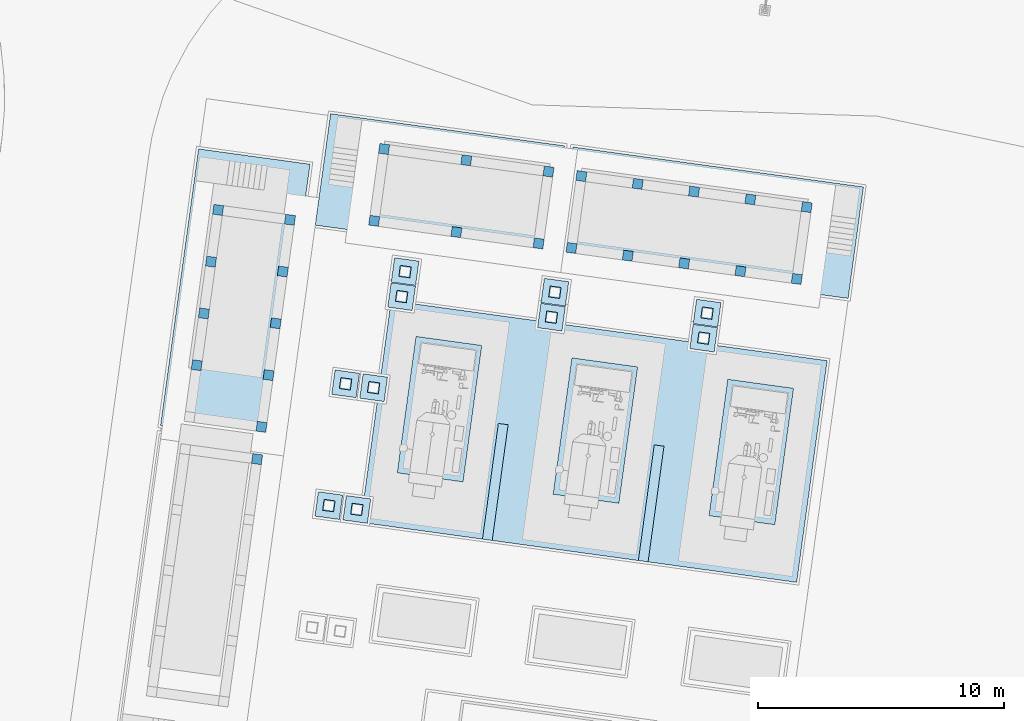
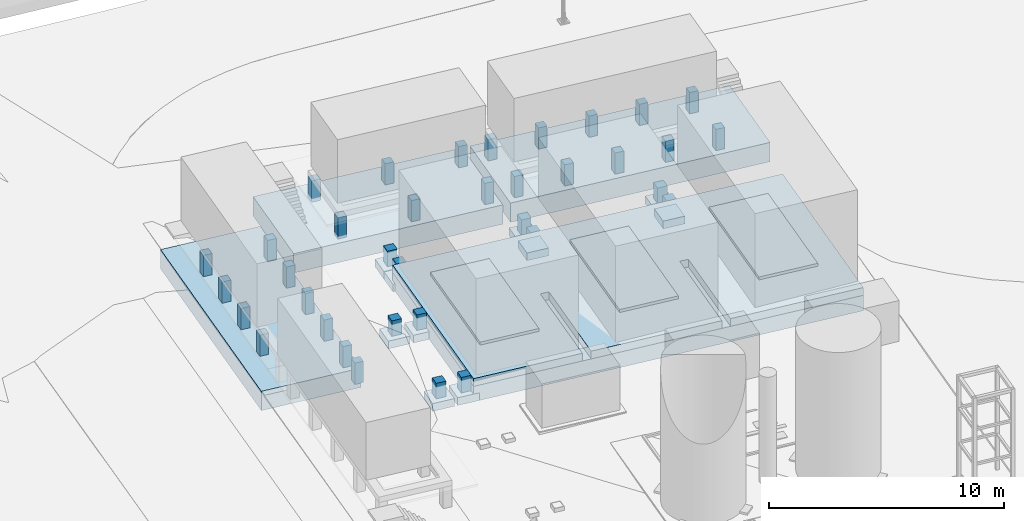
# Not in any storey, part 6 of 75: 54 footings.
"""IFC4 model written with IfcOpenShell, lengths in metres."""

import ifcopenshell
import ifcopenshell.guid

model = None  # the IFC model being written
_history = None  # IfcOwnerHistory: only IFC2X3 demands one
_inside = {}  # id of a spatial element -> (the spatial element, [elements in it])
_under = {}  # id of a project, library or spatial element -> (it, [spatial elements below it])
_declared = {}  # id of a project -> (the project, [libraries it declares])
_typed = {}  # id of a type object -> (the type object, [elements of that type])
_made_of = {}  # id of a material, layer set ... -> (it, [elements and type objects made of it])


def new_model(schema):
    """Start an empty IFC model of exactly this schema.

    Asked for "IFC4X3", IfcOpenShell would pick the latest addendum, in which some entities
    have other attributes; the version numbers below select the first issue.
    IFC2X3 requires an IfcOwnerHistory on every rooted entity: one is made here for all.
    """
    global model, _history
    if schema == "IFC4X3":
        model = ifcopenshell.file(schema_version=(4, 3, 0, 0))
    else:
        model = ifcopenshell.file(schema=schema)
    _inside.clear()
    _under.clear()
    _declared.clear()
    _typed.clear()
    _made_of.clear()
    _history = None
    if model.schema == "IFC2X3":
        org = make("IfcOrganization", Name="unknown")
        user = make(
            "IfcPersonAndOrganization",
            ThePerson=make("IfcPerson", FamilyName="unknown"),
            TheOrganization=org,
        )
        app = make(
            "IfcApplication",
            ApplicationDeveloper=org,
            Version="unknown",
            ApplicationFullName="unknown",
            ApplicationIdentifier="unknown",
        )
        _history = make(
            "IfcOwnerHistory",
            OwningUser=user,
            OwningApplication=app,
            ChangeAction="ADDED",
            CreationDate=0,
        )
    return model


def make(cls, **values):
    """One entity of the class cls with the attributes given. An attribute that is None is left unset."""
    return model.create_entity(
        cls, **{name: value for name, value in values.items() if value is not None}
    )


def rooted(cls, **values):
    """An entity with a GlobalId (a new one), such as an element, a storey or a relation."""
    return make(cls, GlobalId=ifcopenshell.guid.new(), OwnerHistory=_history, **values)


def si_unit(unit_type, name, prefix=None):
    """IfcSIUnit, for example si_unit("LENGTHUNIT", "METRE", prefix="MILLI")."""
    return make("IfcSIUnit", UnitType=unit_type, Prefix=prefix, Name=name)


def assignment(units):
    """IfcUnitAssignment: the units of a project."""
    return None if units is None else make("IfcUnitAssignment", Units=units)


def point(xyz):
    """IfcCartesianPoint."""
    return None if xyz is None else make("IfcCartesianPoint", Coordinates=xyz)


def direction(xyz):
    """IfcDirection."""
    return None if xyz is None else make("IfcDirection", DirectionRatios=xyz)


def frame(location, z_axis=None, x_axis=None):
    """IfcAxis2Placement3D, a coordinate frame: its origin and axes. An axis left out is left unset."""
    return make(
        "IfcAxis2Placement3D",
        Location=point(location),
        Axis=direction(z_axis),
        RefDirection=direction(x_axis),
    )


def origin():
    """The frame at (0, 0, 0) with its axes left unset."""
    return frame((0.0, 0.0, 0.0))


def origin_with_axes():
    """The frame at (0, 0, 0) with the z axis (0, 0, 1) and the x axis (1, 0, 0) written out."""
    return frame((0.0, 0.0, 0.0), z_axis=(0.0, 0.0, 1.0), x_axis=(1.0, 0.0, 0.0))


def place(relative_to, where):
    """IfcLocalPlacement: puts the frame where relative to a parent placement (None: the world)."""
    return make(
        "IfcLocalPlacement", PlacementRelTo=relative_to, RelativePlacement=where
    )


def context(
    kind, dimensions, precision=None, world=None, true_north=None, identifier=None
):
    """IfcGeometricRepresentationContext, for example the 3D "Model" context."""
    return make(
        "IfcGeometricRepresentationContext",
        ContextIdentifier=identifier,
        ContextType=kind,
        CoordinateSpaceDimension=dimensions,
        Precision=precision,
        WorldCoordinateSystem=world,
        TrueNorth=true_north,
    )


def subcontext(parent, identifier, kind, view, scale=None):
    """IfcGeometricRepresentationSubContext, for example "Body" below "Model"."""
    return make(
        "IfcGeometricRepresentationSubContext",
        ContextIdentifier=identifier,
        ContextType=kind,
        ParentContext=parent,
        TargetScale=scale,
        TargetView=view,
    )


def project(units=None, contexts=None):
    """IfcProject with its units and contexts."""
    return rooted(
        "IfcProject",
        Name="project",
        RepresentationContexts=contexts,
        UnitsInContext=assignment(units),
    )


def spatial(cls, under=None, at=None, **own):
    """A site, building, storey or space (cls), placed at a placement, below another one or the project."""
    s = rooted(cls, ObjectPlacement=at, **own)
    if under is not None:
        _under.setdefault(under.id(), (under, []))[1].append(s)
    return s


def point_list(points):
    """IfcCartesianPointList2D or 3D."""
    cls = (
        "IfcCartesianPointList2D" if len(points[0]) == 2 else "IfcCartesianPointList3D"
    )
    return make(cls, CoordList=points)


def triangles(points, corners, closed=None, point_numbers=None):
    """IfcTriangulatedFaceSet: each triangle names its three corners, points numbered from 1."""
    return make(
        "IfcTriangulatedFaceSet",
        Coordinates=point_list(points),
        Closed=closed,
        CoordIndex=corners,
        PnIndex=point_numbers,
    )


def shape(context_of_items, identifier, shape_type, items):
    """IfcShapeRepresentation: the items that make up one representation, for example the "Body"."""
    return make(
        "IfcShapeRepresentation",
        ContextOfItems=context_of_items,
        RepresentationIdentifier=identifier,
        RepresentationType=shape_type,
        Items=items,
    )


def material(Name=None, Category=None):
    """IfcMaterial."""
    return make("IfcMaterial", Name=Name, Category=Category)


def made_of(thing, what):
    """Note that an element or type object is made of a material, layer set ...; save() writes the relation."""
    if what is not None:
        _made_of.setdefault(what.id(), (what, []))[1].append(thing)
    return thing


def element(
    cls,
    number,
    at=None,
    inside=None,
    cuts=None,
    type_object=None,
    material=None,
    context=None,
    identifier="Body",
    shape_type=None,
    held_by="IfcProductDefinitionShape",
    body=None,
    shapes=None,
    **own,
):
    """One element of the class cls, such as IfcWall. Its Tag is "e" and its number.

    at: its placement. inside: the storey or other place that contains it. cuts: it is an
    opening in that element (IfcRelVoidsElement). A single representation is given by context,
    identifier, shape_type and body (its items); several are given by shapes. held_by: the class
    of the entity that holds the representations. save() writes the other relations.
    """
    e = rooted(cls, Tag="e%d" % number, ObjectPlacement=at, **own)
    if body is not None:
        shapes = [shape(context, identifier, shape_type, body)]
    if shapes is not None:
        e.Representation = make(held_by, Representations=shapes)
    if inside is not None:
        _inside.setdefault(inside.id(), (inside, []))[1].append(e)
    if cuts is not None:
        rooted(
            "IfcRelVoidsElement", RelatingBuildingElement=cuts, RelatedOpeningElement=e
        )
    if type_object is not None:
        _typed.setdefault(type_object.id(), (type_object, []))[1].append(e)
    return made_of(e, material)


def aggregate(whole, parts):
    """IfcRelAggregates: a whole, such as a stair, and the parts it consists of."""
    return rooted("IfcRelAggregates", RelatingObject=whole, RelatedObjects=parts)


def save(model, path):
    """Write the relations noted so far, then the file.

    IfcRelAggregates (storeys below a building ...), IfcRelContainedInSpatialStructure (elements
    in a storey), IfcRelDefinesByType, IfcRelAssociatesMaterial and IfcRelDeclares: one each for
    every whole, place, type object, material and project.
    """
    for whole, parts in _under.values():
        aggregate(whole, parts)
    for where, things in _inside.values():
        rooted(
            "IfcRelContainedInSpatialStructure",
            RelatedElements=things,
            RelatingStructure=where,
        )
    for kind, things in _typed.values():
        rooted("IfcRelDefinesByType", RelatedObjects=things, RelatingType=kind)
    for what, things in _made_of.values():
        rooted("IfcRelAssociatesMaterial", RelatedObjects=things, RelatingMaterial=what)
    for by, libraries in _declared.values():
        rooted("IfcRelDeclares", RelatingContext=by, RelatedDefinitions=libraries)
    model.write(path)


model = new_model("IFC4")

# Units and contexts
model_context = context("Model", 3, precision=1e-05, world=origin_with_axes(), true_north=direction((0.0, 1.0)))
body_context = subcontext(model_context, "Body", "Model", "MODEL_VIEW")
ifc_project = project(units=[si_unit("AREAUNIT", "SQUARE_METRE"), si_unit("VOLUMEUNIT", "CUBIC_METRE"), si_unit("LENGTHUNIT", "METRE")], contexts=[model_context])

# Site
site_placement = place(None, origin_with_axes())
site = spatial("IfcSite", under=ifc_project, at=site_placement, Name="Parcela industrial Jinhong")

# Footings
footing_1_placement = place(None, origin())
element("IfcFooting", 1, at=footing_1_placement, inside=site, Name="Cimentación común MAC · losa inferior", PredefinedType="PAD_FOOTING", context=body_context, shape_type="Tessellation", body=[
    triangles([(65.536987, 75.745192, 0.1), (64.297531, 66.729997, 0.1), (46.564344, 69.168047, 0.1), (47.8038, 78.183243, 0.1), (65.536987, 75.745192, 0.9), (64.297531, 66.729997, 0.9), (46.564344, 69.168047, 0.9), (47.8038, 78.183243, 0.9)], [[1, 2, 3], [3, 4, 1], [7, 6, 5], [5, 8, 7], [5, 6, 1], [1, 6, 2], [6, 7, 2], [2, 7, 3], [8, 5, 4], [4, 5, 1], [7, 8, 3], [3, 8, 4]], closed=True),
])
footing_2_placement = place(None, origin())
element("IfcFooting", 2, at=footing_2_placement, inside=site, Name="Cimentación común MAC · losa superior con dos canales de 400 mm", PredefinedType="PAD_FOOTING", context=body_context, shape_type="Tessellation", body=[
    triangles([(64.297531, 66.729997, 0.9), (58.254378, 67.560841, 0.9), (58.901347, 72.266575, 0.9), (58.505074, 72.321056, 0.9), (57.858106, 67.615322, 0.9), (51.914021, 68.432546, 0.9), (52.164717, 73.192762, 0.9), (51.517748, 68.487028, 0.9), (46.564344, 69.168047, 0.9), (65.536987, 75.745192, 0.9), (52.560989, 73.13828, 0.9), (47.8038, 78.183243, 0.9), (64.297531, 66.729997, 1.3), (58.254378, 67.560841, 1.3), (58.901347, 72.266575, 1.3), (58.505074, 72.321056, 1.3), (57.858106, 67.615322, 1.3), (51.914021, 68.432546, 1.3), (52.164717, 73.192762, 1.3), (51.517748, 68.487028, 1.3), (46.564344, 69.168047, 1.3), (65.536987, 75.745192, 1.3), (52.560989, 73.13828, 1.3), (47.8038, 78.183243, 1.3)], [[1, 2, 3], [4, 5, 6], [7, 8, 9], [10, 1, 3], [4, 6, 11], [7, 9, 12], [4, 10, 3], [11, 7, 12], [10, 4, 12], [4, 11, 12], [15, 14, 13], [18, 17, 16], [21, 20, 19], [15, 13, 22], [23, 18, 16], [24, 21, 19], [15, 22, 16], [24, 19, 23], [24, 16, 22], [24, 23, 16], [13, 14, 1], [1, 14, 2], [14, 15, 2], [2, 15, 3], [15, 16, 3], [3, 16, 4], [16, 17, 4], [4, 17, 5], [17, 18, 5], [5, 18, 6], [19, 20, 7], [7, 20, 8], [20, 21, 8], [8, 21, 9], [22, 13, 10], [10, 13, 1], [18, 23, 6], [6, 23, 11], [23, 19, 11], [11, 19, 7], [21, 24, 9], [9, 24, 12], [24, 22, 12], [12, 22, 10]], closed=True),
])
footing_3_placement = place(None, origin())
element("IfcFooting", 3, at=footing_3_placement, inside=site, Name="Plinto del compresor AC1001A · resalto de hormigón", PredefinedType="PAD_FOOTING", context=body_context, shape_type="Tessellation", body=[
    triangles([(51.49039, 76.364162, 1.3), (50.727648, 70.81635, 1.3), (48.05281, 71.1841, 1.3), (48.815552, 76.731913, 1.3), (51.49039, 76.364162, 1.45), (50.727648, 70.81635, 1.45), (48.05281, 71.1841, 1.45), (48.815552, 76.731913, 1.45)], [[1, 2, 3], [3, 4, 1], [7, 6, 5], [5, 8, 7], [5, 6, 1], [1, 6, 2], [6, 7, 2], [2, 7, 3], [8, 5, 4], [4, 5, 1], [7, 8, 3], [3, 8, 4]], closed=True),
])
footing_4_placement = place(None, origin())
element("IfcFooting", 4, at=footing_4_placement, inside=site, Name="Plinto del compresor AC1001B · resalto de hormigón", PredefinedType="PAD_FOOTING", context=body_context, shape_type="Tessellation", body=[
    triangles([(57.830747, 75.492457, 1.3), (57.068005, 69.944645, 1.3), (54.393167, 70.312395, 1.3), (55.155909, 75.860208, 1.3), (57.830747, 75.492457, 1.45), (57.068005, 69.944645, 1.45), (54.393167, 70.312395, 1.45), (55.155909, 75.860208, 1.45)], [[1, 2, 3], [3, 4, 1], [7, 6, 5], [5, 8, 7], [5, 6, 1], [1, 6, 2], [6, 7, 2], [2, 7, 3], [8, 5, 4], [4, 5, 1], [7, 8, 3], [3, 8, 4]], closed=True),
])
footing_5_placement = place(None, origin())
element("IfcFooting", 5, at=footing_5_placement, inside=site, Name="Plinto del compresor AC1001C · resalto de hormigón", PredefinedType="PAD_FOOTING", context=body_context, shape_type="Tessellation", body=[
    triangles([(64.171105, 74.620752, 1.3), (63.408363, 69.072939, 1.3), (60.733524, 69.44069, 1.3), (61.496266, 74.988503, 1.3), (64.171105, 74.620752, 1.45), (63.408363, 69.072939, 1.45), (60.733524, 69.44069, 1.45), (61.496266, 74.988503, 1.45)], [[1, 2, 3], [3, 4, 1], [7, 6, 5], [5, 8, 7], [5, 6, 1], [1, 6, 2], [6, 7, 2], [2, 7, 3], [8, 5, 4], [4, 5, 1], [7, 8, 3], [3, 8, 4]], closed=True),
])
footing_6_placement = place(None, origin())
element("IfcFooting", 6, at=footing_6_placement, inside=site, Name="Cimentación y plataforma del módulo LV-CONTAINER · cuerpo de hormigón", PredefinedType="PAD_FOOTING", context=body_context, shape_type="Tessellation", body=[
    triangles([(38.42586, 73.113307, 0.1), (44.504139, 83.734402, 0.1), (42.958225, 72.490174, 0.1), (39.971775, 84.357535, 0.1), (38.42586, 73.113307, 1.1), (44.504139, 83.734402, 1.1), (42.958225, 72.490174, 1.1), (39.971775, 84.357535, 1.1)], [[1, 2, 3], [2, 1, 4], [7, 6, 5], [8, 5, 6], [7, 5, 3], [3, 5, 1], [6, 7, 2], [2, 7, 3], [5, 8, 1], [1, 8, 4], [8, 6, 4], [4, 6, 2]], closed=True),
])
footing_7_placement = place(None, origin())
element("IfcFooting", 7, at=footing_7_placement, inside=site, Name="Cimentación y plataforma del módulo LV-CONTAINER · pilar KZ1 01", PredefinedType="PAD_FOOTING", context=body_context, shape_type="Tessellation", body=[
    triangles([(42.360091, 73.278994, 1.1), (42.756363, 73.224512, 1.1), (42.701882, 72.82824, 1.1), (42.305609, 72.882721, 1.1), (42.360091, 73.278994, 2.2), (42.756363, 73.224512, 2.2), (42.701882, 72.82824, 2.2), (42.305609, 72.882721, 2.2)], [[1, 2, 3], [3, 4, 1], [7, 6, 5], [5, 8, 7], [5, 6, 1], [1, 6, 2], [6, 7, 2], [2, 7, 3], [8, 5, 4], [4, 5, 1], [7, 8, 3], [3, 8, 4]], closed=True),
])
footing_8_placement = place(None, origin())
element("IfcFooting", 8, at=footing_8_placement, inside=site, Name="Cimentación y plataforma del módulo LV-CONTAINER · pilar KZ1 02", PredefinedType="PAD_FOOTING", context=body_context, shape_type="Tessellation", body=[
    triangles([(42.649524, 75.38419, 1.1), (43.045797, 75.329709, 1.1), (42.991315, 74.933437, 1.1), (42.595043, 74.987918, 1.1), (42.649524, 75.38419, 2.2), (43.045797, 75.329709, 2.2), (42.991315, 74.933437, 2.2), (42.595043, 74.987918, 2.2)], [[1, 2, 3], [3, 4, 1], [7, 6, 5], [5, 8, 7], [5, 6, 1], [1, 6, 2], [6, 7, 2], [2, 7, 3], [8, 5, 4], [4, 5, 1], [7, 8, 3], [3, 8, 4]], closed=True),
])
footing_9_placement = place(None, origin())
element("IfcFooting", 9, at=footing_9_placement, inside=site, Name="Cimentación y plataforma del módulo LV-CONTAINER · pilar KZ1 03", PredefinedType="PAD_FOOTING", context=body_context, shape_type="Tessellation", body=[
    triangles([(42.938958, 77.489387, 1.1), (43.33523, 77.434906, 1.1), (43.280748, 77.038633, 1.1), (42.884476, 77.093115, 1.1), (42.938958, 77.489387, 2.2), (43.33523, 77.434906, 2.2), (43.280748, 77.038633, 2.2), (42.884476, 77.093115, 2.2)], [[1, 2, 3], [3, 4, 1], [7, 6, 5], [5, 8, 7], [5, 6, 1], [1, 6, 2], [6, 7, 2], [2, 7, 3], [8, 5, 4], [4, 5, 1], [7, 8, 3], [3, 8, 4]], closed=True),
])
footing_10_placement = place(None, origin())
element("IfcFooting", 10, at=footing_10_placement, inside=site, Name="Cimentación y plataforma del módulo LV-CONTAINER · pilar KZ1 04", PredefinedType="PAD_FOOTING", context=body_context, shape_type="Tessellation", body=[
    triangles([(43.228391, 79.594584, 1.1), (43.624663, 79.540102, 1.1), (43.570182, 79.14383, 1.1), (43.17391, 79.198312, 1.1), (43.228391, 79.594584, 2.2), (43.624663, 79.540102, 2.2), (43.570182, 79.14383, 2.2), (43.17391, 79.198312, 2.2)], [[1, 2, 3], [3, 4, 1], [7, 6, 5], [5, 8, 7], [5, 6, 1], [1, 6, 2], [6, 7, 2], [2, 7, 3], [8, 5, 4], [4, 5, 1], [7, 8, 3], [3, 8, 4]], closed=True),
])
footing_11_placement = place(None, origin())
element("IfcFooting", 11, at=footing_11_placement, inside=site, Name="Cimentación y plataforma del módulo LV-CONTAINER · pilar KZ1 05", PredefinedType="PAD_FOOTING", context=body_context, shape_type="Tessellation", body=[
    triangles([(43.517824, 81.699781, 1.1), (43.914097, 81.645299, 1.1), (43.859615, 81.249027, 1.1), (43.463343, 81.303508, 1.1), (43.517824, 81.699781, 2.2), (43.914097, 81.645299, 2.2), (43.859615, 81.249027, 2.2), (43.463343, 81.303508, 2.2)], [[1, 2, 3], [3, 4, 1], [7, 6, 5], [5, 8, 7], [5, 6, 1], [1, 6, 2], [6, 7, 2], [2, 7, 3], [8, 5, 4], [4, 5, 1], [7, 8, 3], [3, 8, 4]], closed=True),
])
footing_12_placement = place(None, origin())
element("IfcFooting", 12, at=footing_12_placement, inside=site, Name="Cimentación y plataforma del módulo LV-CONTAINER · pilar KZ1 07", PredefinedType="PAD_FOOTING", context=body_context, shape_type="Tessellation", body=[
    triangles([(39.727016, 75.785992, 1.1), (40.123288, 75.73151, 1.1), (40.068807, 75.335238, 1.1), (39.672534, 75.38972, 1.1), (39.727016, 75.785992, 2.2), (40.123288, 75.73151, 2.2), (40.068807, 75.335238, 2.2), (39.672534, 75.38972, 2.2)], [[1, 2, 3], [3, 4, 1], [7, 6, 5], [5, 8, 7], [5, 6, 1], [1, 6, 2], [6, 7, 2], [2, 7, 3], [8, 5, 4], [4, 5, 1], [7, 8, 3], [3, 8, 4]], closed=True),
])
footing_13_placement = place(None, origin())
element("IfcFooting", 13, at=footing_13_placement, inside=site, Name="Cimentación y plataforma del módulo LV-CONTAINER · pilar KZ1 08", PredefinedType="PAD_FOOTING", context=body_context, shape_type="Tessellation", body=[
    triangles([(40.016449, 77.891189, 1.1), (40.412722, 77.836707, 1.1), (40.35824, 77.440435, 1.1), (39.961968, 77.494916, 1.1), (40.016449, 77.891189, 2.2), (40.412722, 77.836707, 2.2), (40.35824, 77.440435, 2.2), (39.961968, 77.494916, 2.2)], [[1, 2, 3], [3, 4, 1], [7, 6, 5], [5, 8, 7], [5, 6, 1], [1, 6, 2], [6, 7, 2], [2, 7, 3], [8, 5, 4], [4, 5, 1], [7, 8, 3], [3, 8, 4]], closed=True),
])
footing_14_placement = place(None, origin())
element("IfcFooting", 14, at=footing_14_placement, inside=site, Name="Cimentación y plataforma del módulo LV-CONTAINER · pilar KZ1 09", PredefinedType="PAD_FOOTING", context=body_context, shape_type="Tessellation", body=[
    triangles([(40.305883, 79.996385, 1.1), (40.702155, 79.941904, 1.1), (40.647673, 79.545632, 1.1), (40.251401, 79.600113, 1.1), (40.305883, 79.996385, 2.2), (40.702155, 79.941904, 2.2), (40.647673, 79.545632, 2.2), (40.251401, 79.600113, 2.2)], [[1, 2, 3], [3, 4, 1], [7, 6, 5], [5, 8, 7], [5, 6, 1], [1, 6, 2], [6, 7, 2], [2, 7, 3], [8, 5, 4], [4, 5, 1], [7, 8, 3], [3, 8, 4]], closed=True),
])
footing_15_placement = place(None, origin())
element("IfcFooting", 15, at=footing_15_placement, inside=site, Name="Cimentación y plataforma del módulo LV-CONTAINER · pilar KZ1 10", PredefinedType="PAD_FOOTING", context=body_context, shape_type="Tessellation", body=[
    triangles([(40.595316, 82.101582, 1.1), (40.991588, 82.047101, 1.1), (40.937107, 81.650828, 1.1), (40.540834, 81.70531, 1.1), (40.595316, 82.101582, 2.2), (40.991588, 82.047101, 2.2), (40.937107, 81.650828, 2.2), (40.540834, 81.70531, 2.2)], [[1, 2, 3], [3, 4, 1], [7, 6, 5], [5, 8, 7], [5, 6, 1], [1, 6, 2], [6, 7, 2], [2, 7, 3], [8, 5, 4], [4, 5, 1], [7, 8, 3], [3, 8, 4]], closed=True),
])
footing_16_placement = place(None, origin())
element("IfcFooting", 16, at=footing_16_placement, inside=site, Name="Cimentación y plataforma del módulo HV-CONTAINER · cuerpo de hormigón", PredefinedType="PAD_FOOTING", context=body_context, shape_type="Tessellation", body=[
    triangles([(55.199126, 84.434224, 0.1), (66.389862, 78.277628, 0.1), (54.575994, 79.901859, 0.1), (67.012995, 82.809992, 0.1), (55.199126, 84.434224, 1.1), (66.389862, 78.277628, 1.1), (54.575994, 79.901859, 1.1), (67.012995, 82.809992, 1.1)], [[1, 2, 3], [2, 1, 4], [7, 6, 5], [8, 5, 6], [7, 5, 3], [3, 5, 1], [6, 7, 2], [2, 7, 3], [5, 8, 1], [1, 8, 4], [8, 6, 4], [4, 6, 2]], closed=True),
])
footing_17_placement = place(None, origin())
element("IfcFooting", 17, at=footing_17_placement, inside=site, Name="Cimentación y plataforma del módulo HV-CONTAINER · pilar KZ1 01", PredefinedType="PAD_FOOTING", context=body_context, shape_type="Tessellation", body=[
    triangles([(55.364813, 80.499993, 1.1), (55.310331, 80.103721, 1.1), (54.914059, 80.158203, 1.1), (54.968541, 80.554475, 1.1), (55.364813, 80.499993, 2.2), (55.310331, 80.103721, 2.2), (54.914059, 80.158203, 2.2), (54.968541, 80.554475, 2.2)], [[1, 2, 3], [3, 4, 1], [7, 6, 5], [5, 8, 7], [5, 6, 1], [1, 6, 2], [6, 7, 2], [2, 7, 3], [8, 5, 4], [4, 5, 1], [7, 8, 3], [3, 8, 4]], closed=True),
])
footing_18_placement = place(None, origin())
element("IfcFooting", 18, at=footing_18_placement, inside=site, Name="Cimentación y plataforma del módulo HV-CONTAINER · pilar KZ1 02", PredefinedType="PAD_FOOTING", context=body_context, shape_type="Tessellation", body=[
    triangles([(57.655762, 80.185022, 1.1), (57.601281, 79.788749, 1.1), (57.205008, 79.843231, 1.1), (57.25949, 80.239503, 1.1), (57.655762, 80.185022, 2.2), (57.601281, 79.788749, 2.2), (57.205008, 79.843231, 2.2), (57.25949, 80.239503, 2.2)], [[1, 2, 3], [3, 4, 1], [7, 6, 5], [5, 8, 7], [5, 6, 1], [1, 6, 2], [6, 7, 2], [2, 7, 3], [8, 5, 4], [4, 5, 1], [7, 8, 3], [3, 8, 4]], closed=True),
])
footing_19_placement = place(None, origin())
element("IfcFooting", 19, at=footing_19_placement, inside=site, Name="Cimentación y plataforma del módulo HV-CONTAINER · pilar KZ1 03", PredefinedType="PAD_FOOTING", context=body_context, shape_type="Tessellation", body=[
    triangles([(59.946712, 79.87005, 1.1), (59.89223, 79.473778, 1.1), (59.495958, 79.528259, 1.1), (59.550439, 79.924532, 1.1), (59.946712, 79.87005, 2.2), (59.89223, 79.473778, 2.2), (59.495958, 79.528259, 2.2), (59.550439, 79.924532, 2.2)], [[1, 2, 3], [3, 4, 1], [7, 6, 5], [5, 8, 7], [5, 6, 1], [1, 6, 2], [6, 7, 2], [2, 7, 3], [8, 5, 4], [4, 5, 1], [7, 8, 3], [3, 8, 4]], closed=True),
])
footing_20_placement = place(None, origin())
element("IfcFooting", 20, at=footing_20_placement, inside=site, Name="Cimentación y plataforma del módulo HV-CONTAINER · pilar KZ1 04", PredefinedType="PAD_FOOTING", context=body_context, shape_type="Tessellation", body=[
    triangles([(62.237661, 79.555079, 1.1), (62.183179, 79.158806, 1.1), (61.786907, 79.213288, 1.1), (61.841389, 79.60956, 1.1), (62.237661, 79.555079, 2.2), (62.183179, 79.158806, 2.2), (61.786907, 79.213288, 2.2), (61.841389, 79.60956, 2.2)], [[1, 2, 3], [3, 4, 1], [7, 6, 5], [5, 8, 7], [5, 6, 1], [1, 6, 2], [6, 7, 2], [2, 7, 3], [8, 5, 4], [4, 5, 1], [7, 8, 3], [3, 8, 4]], closed=True),
])
footing_21_placement = place(None, origin())
element("IfcFooting", 21, at=footing_21_placement, inside=site, Name="Cimentación y plataforma del módulo HV-CONTAINER · pilar KZ1 05", PredefinedType="PAD_FOOTING", context=body_context, shape_type="Tessellation", body=[
    triangles([(64.52861, 79.240107, 1.1), (64.474129, 78.843835, 1.1), (64.077857, 78.898316, 1.1), (64.132338, 79.294589, 1.1), (64.52861, 79.240107, 2.2), (64.474129, 78.843835, 2.2), (64.077857, 78.898316, 2.2), (64.132338, 79.294589, 2.2)], [[1, 2, 3], [3, 4, 1], [7, 6, 5], [5, 8, 7], [5, 6, 1], [1, 6, 2], [6, 7, 2], [2, 7, 3], [8, 5, 4], [4, 5, 1], [7, 8, 3], [3, 8, 4]], closed=True),
])
footing_22_placement = place(None, origin())
element("IfcFooting", 22, at=footing_22_placement, inside=site, Name="Cimentación y plataforma del módulo HV-CONTAINER · pilar KZ1 06", PredefinedType="PAD_FOOTING", context=body_context, shape_type="Tessellation", body=[
    triangles([(55.766614, 83.422502, 1.1), (55.712133, 83.026229, 1.1), (55.315861, 83.080711, 1.1), (55.370342, 83.476983, 1.1), (55.766614, 83.422502, 2.2), (55.712133, 83.026229, 2.2), (55.315861, 83.080711, 2.2), (55.370342, 83.476983, 2.2)], [[1, 2, 3], [3, 4, 1], [7, 6, 5], [5, 8, 7], [5, 6, 1], [1, 6, 2], [6, 7, 2], [2, 7, 3], [8, 5, 4], [4, 5, 1], [7, 8, 3], [3, 8, 4]], closed=True),
])
footing_23_placement = place(None, origin())
element("IfcFooting", 23, at=footing_23_placement, inside=site, Name="Cimentación y plataforma del módulo HV-CONTAINER · pilar KZ1 07", PredefinedType="PAD_FOOTING", context=body_context, shape_type="Tessellation", body=[
    triangles([(57.60681, 82.765739, 1.1), (58.057564, 83.10753, 1.1), (58.003082, 82.711258, 1.1), (57.661292, 83.162012, 1.1), (57.60681, 82.765739, 2.2), (58.057564, 83.10753, 2.2), (58.003082, 82.711258, 2.2), (57.661292, 83.162012, 2.2)], [[1, 2, 3], [2, 1, 4], [7, 6, 5], [8, 5, 6], [7, 5, 3], [3, 5, 1], [6, 7, 2], [2, 7, 3], [5, 8, 1], [1, 8, 4], [8, 6, 4], [4, 6, 2]], closed=True),
])
footing_24_placement = place(None, origin())
element("IfcFooting", 24, at=footing_24_placement, inside=site, Name="Cimentación y plataforma del módulo HV-CONTAINER · pilar KZ1 08", PredefinedType="PAD_FOOTING", context=body_context, shape_type="Tessellation", body=[
    triangles([(59.897759, 82.450768, 1.1), (60.348513, 82.792559, 1.1), (60.294032, 82.396286, 1.1), (59.952241, 82.84704, 1.1), (59.897759, 82.450768, 2.2), (60.348513, 82.792559, 2.2), (60.294032, 82.396286, 2.2), (59.952241, 82.84704, 2.2)], [[1, 2, 3], [2, 1, 4], [7, 6, 5], [8, 5, 6], [7, 5, 3], [3, 5, 1], [6, 7, 2], [2, 7, 3], [5, 8, 1], [1, 8, 4], [8, 6, 4], [4, 6, 2]], closed=True),
])
footing_25_placement = place(None, origin())
element("IfcFooting", 25, at=footing_25_placement, inside=site, Name="Cimentación y plataforma del módulo HV-CONTAINER · pilar KZ1 09", PredefinedType="PAD_FOOTING", context=body_context, shape_type="Tessellation", body=[
    triangles([(62.188709, 82.135796, 1.1), (62.639463, 82.477587, 1.1), (62.584981, 82.081315, 1.1), (62.24319, 82.532069, 1.1), (62.188709, 82.135796, 2.2), (62.639463, 82.477587, 2.2), (62.584981, 82.081315, 2.2), (62.24319, 82.532069, 2.2)], [[1, 2, 3], [2, 1, 4], [7, 6, 5], [8, 5, 6], [7, 5, 3], [3, 5, 1], [6, 7, 2], [2, 7, 3], [5, 8, 1], [1, 8, 4], [8, 6, 4], [4, 6, 2]], closed=True),
])
footing_26_placement = place(None, origin())
element("IfcFooting", 26, at=footing_26_placement, inside=site, Name="Cimentación y plataforma del módulo HV-CONTAINER · pilar KZ1 10", PredefinedType="PAD_FOOTING", context=body_context, shape_type="Tessellation", body=[
    triangles([(64.479658, 81.820825, 1.1), (64.930412, 82.162615, 1.1), (64.87593, 81.766343, 1.1), (64.53414, 82.217097, 1.1), (64.479658, 81.820825, 2.2), (64.930412, 82.162615, 2.2), (64.87593, 81.766343, 2.2), (64.53414, 82.217097, 2.2)], [[1, 2, 3], [2, 1, 4], [7, 6, 5], [8, 5, 6], [7, 5, 3], [3, 5, 1], [6, 7, 2], [2, 7, 3], [5, 8, 1], [1, 8, 4], [8, 6, 4], [4, 6, 2]], closed=True),
])
footing_27_placement = place(None, origin())
element("IfcFooting", 27, at=footing_27_placement, inside=site, Name="Cimentación y plataforma del módulo IC-CONTAINER · pilar KZ1 05", PredefinedType="PAD_FOOTING", context=body_context, shape_type="Tessellation", body=[
    triangles([(42.179621, 71.966342, 1.1), (42.575893, 71.91186, 1.1), (42.521412, 71.515588, 1.1), (42.125139, 71.570069, 1.1), (42.179621, 71.966342, 2.2), (42.575893, 71.91186, 2.2), (42.521412, 71.515588, 2.2), (42.125139, 71.570069, 2.2)], [[1, 2, 3], [3, 4, 1], [7, 6, 5], [5, 8, 7], [5, 6, 1], [1, 6, 2], [6, 7, 2], [2, 7, 3], [8, 5, 4], [4, 5, 1], [7, 8, 3], [3, 8, 4]], closed=True),
])
footing_28_placement = place(None, origin())
element("IfcFooting", 28, at=footing_28_placement, inside=site, Name="Cimentación y plataforma del módulo MV-CONTAINER · cuerpo de hormigón", PredefinedType="PAD_FOOTING", context=body_context, shape_type="Tessellation", body=[
    triangles([(54.851893, 84.481964, 0.1), (54.22876, 79.949599, 0.1), (44.718224, 81.257157, 0.1), (45.341357, 85.789521, 0.1), (54.851893, 84.481964, 1.1), (54.22876, 79.949599, 1.1), (44.718224, 81.257157, 1.1), (45.341357, 85.789521, 1.1)], [[1, 2, 3], [3, 4, 1], [7, 6, 5], [5, 8, 7], [5, 6, 1], [1, 6, 2], [6, 7, 2], [2, 7, 3], [8, 5, 4], [4, 5, 1], [7, 8, 3], [3, 8, 4]], closed=True),
])
footing_29_placement = place(None, origin())
element("IfcFooting", 29, at=footing_29_placement, inside=site, Name="Cimentación y plataforma del módulo MV-CONTAINER · pilar KZ1 01", PredefinedType="PAD_FOOTING", context=body_context, shape_type="Tessellation", body=[
    triangles([(51.085648, 84.066065, 1.1), (51.031166, 83.669793, 1.1), (50.634894, 83.724274, 1.1), (50.689375, 84.120547, 1.1), (51.085648, 84.066065, 2.2), (51.031166, 83.669793, 2.2), (50.634894, 83.724274, 2.2), (50.689375, 84.120547, 2.2)], [[1, 2, 3], [3, 4, 1], [7, 6, 5], [5, 8, 7], [5, 6, 1], [1, 6, 2], [6, 7, 2], [2, 7, 3], [8, 5, 4], [4, 5, 1], [7, 8, 3], [3, 8, 4]], closed=True),
])
footing_30_placement = place(None, origin())
element("IfcFooting", 30, at=footing_30_placement, inside=site, Name="Cimentación y plataforma del módulo MV-CONTAINER · pilar KZ1 02", PredefinedType="PAD_FOOTING", context=body_context, shape_type="Tessellation", body=[
    triangles([(47.339803, 81.603313, 1.1), (47.285321, 81.207041, 1.1), (46.889049, 81.261522, 1.1), (46.943531, 81.657795, 1.1), (47.339803, 81.603313, 2.2), (47.285321, 81.207041, 2.2), (46.889049, 81.261522, 2.2), (46.943531, 81.657795, 2.2)], [[1, 2, 3], [3, 4, 1], [7, 6, 5], [5, 8, 7], [5, 6, 1], [1, 6, 2], [6, 7, 2], [2, 7, 3], [8, 5, 4], [4, 5, 1], [7, 8, 3], [3, 8, 4]], closed=True),
])
footing_31_placement = place(None, origin())
element("IfcFooting", 31, at=footing_31_placement, inside=site, Name="Cimentación y plataforma del módulo MV-CONTAINER · pilar KZ1 03", PredefinedType="PAD_FOOTING", context=body_context, shape_type="Tessellation", body=[
    triangles([(50.683846, 81.143557, 1.1), (50.629364, 80.747285, 1.1), (50.233092, 80.801766, 1.1), (50.287574, 81.198038, 1.1), (50.683846, 81.143557, 2.2), (50.629364, 80.747285, 2.2), (50.233092, 80.801766, 2.2), (50.287574, 81.198038, 2.2)], [[1, 2, 3], [3, 4, 1], [7, 6, 5], [5, 8, 7], [5, 6, 1], [1, 6, 2], [6, 7, 2], [2, 7, 3], [8, 5, 4], [4, 5, 1], [7, 8, 3], [3, 8, 4]], closed=True),
])
footing_32_placement = place(None, origin())
element("IfcFooting", 32, at=footing_32_placement, inside=site, Name="Cimentación y plataforma del módulo MV-CONTAINER · pilar KZ1 04", PredefinedType="PAD_FOOTING", context=body_context, shape_type="Tessellation", body=[
    triangles([(54.026898, 80.683937, 1.1), (53.972417, 80.287664, 1.1), (53.576145, 80.342146, 1.1), (53.630626, 80.738418, 1.1), (54.026898, 80.683937, 2.2), (53.972417, 80.287664, 2.2), (53.576145, 80.342146, 2.2), (53.630626, 80.738418, 2.2)], [[1, 2, 3], [3, 4, 1], [7, 6, 5], [5, 8, 7], [5, 6, 1], [1, 6, 2], [6, 7, 2], [2, 7, 3], [8, 5, 4], [4, 5, 1], [7, 8, 3], [3, 8, 4]], closed=True),
])
footing_33_placement = place(None, origin())
element("IfcFooting", 33, at=footing_33_placement, inside=site, Name="Cimentación y plataforma del módulo MV-CONTAINER · pilar KZ1 05", PredefinedType="PAD_FOOTING", context=body_context, shape_type="Tessellation", body=[
    triangles([(47.741604, 84.525822, 1.1), (47.687123, 84.129549, 1.1), (47.290851, 84.184031, 1.1), (47.345332, 84.580303, 1.1), (47.741604, 84.525822, 2.2), (47.687123, 84.129549, 2.2), (47.290851, 84.184031, 2.2), (47.345332, 84.580303, 2.2)], [[1, 2, 3], [3, 4, 1], [7, 6, 5], [5, 8, 7], [5, 6, 1], [1, 6, 2], [6, 7, 2], [2, 7, 3], [8, 5, 4], [4, 5, 1], [7, 8, 3], [3, 8, 4]], closed=True),
])
footing_34_placement = place(None, origin())
element("IfcFooting", 34, at=footing_34_placement, inside=site, Name="Cimentación y plataforma del módulo MV-CONTAINER · pilar KZ1 06", PredefinedType="PAD_FOOTING", context=body_context, shape_type="Tessellation", body=[
    triangles([(54.4287, 83.606445, 1.1), (54.374218, 83.210173, 1.1), (53.977946, 83.264654, 1.1), (54.032428, 83.660927, 1.1), (54.4287, 83.606445, 2.2), (54.374218, 83.210173, 2.2), (53.977946, 83.264654, 2.2), (54.032428, 83.660927, 2.2)], [[1, 2, 3], [3, 4, 1], [7, 6, 5], [5, 8, 7], [5, 6, 1], [1, 6, 2], [6, 7, 2], [2, 7, 3], [8, 5, 4], [4, 5, 1], [7, 8, 3], [3, 8, 4]], closed=True),
])
ifc_material = material(Name="Hormigón HA-30", Category="Material documentado")
footing_35_placement = place(None, origin())
element("IfcFooting", 35, at=footing_35_placement, inside=site, material=ifc_material, Name="Cimentación de soporte de tuberías C01 · cuerpo de hormigón", PredefinedType="PAD_FOOTING", context=body_context, shape_type="Tessellation", body=[
    triangles([(47.806885, 78.939874, 0.1), (47.943089, 79.930555, 0.1), (48.93377, 79.794351, 0.1), (48.797566, 78.80367, 0.1), (47.806885, 78.939874, 0.5), (47.943089, 79.930555, 0.5), (48.93377, 79.794351, 0.5), (48.797566, 78.80367, 0.5)], [[1, 2, 3], [3, 4, 1], [7, 6, 5], [5, 8, 7], [5, 6, 1], [1, 6, 2], [6, 7, 2], [2, 7, 3], [8, 5, 4], [4, 5, 1], [7, 8, 3], [3, 8, 4]], closed=True),
])
footing_36_placement = place(None, origin())
element("IfcFooting", 36, at=footing_36_placement, inside=site, material=ifc_material, Name="Cimentación de soporte de tuberías C01 · pedestal de hormigón", PredefinedType="PAD_FOOTING", context=body_context, shape_type="Tessellation", body=[
    triangles([(48.116778, 79.174855, 0.5), (48.17807, 79.620661, 0.5), (48.623876, 79.559369, 0.5), (48.562584, 79.113563, 0.5), (48.116778, 79.174855, 1.3), (48.17807, 79.620661, 1.3), (48.623876, 79.559369, 1.3), (48.562584, 79.113563, 1.3)], [[1, 2, 3], [3, 4, 1], [7, 6, 5], [5, 8, 7], [5, 6, 1], [1, 6, 2], [6, 7, 2], [2, 7, 3], [8, 5, 4], [4, 5, 1], [7, 8, 3], [3, 8, 4]], closed=True),
])
footing_37_placement = place(None, origin())
element("IfcFooting", 37, at=footing_37_placement, inside=site, material=ifc_material, Name="Cimentación de soporte de tuberías C02 · cuerpo de hormigón", PredefinedType="PAD_FOOTING", context=body_context, shape_type="Tessellation", body=[
    triangles([(47.667276, 77.924426, 0.1), (47.80348, 78.915107, 0.1), (48.79416, 78.778903, 0.1), (48.657957, 77.788222, 0.1), (47.667276, 77.924426, 0.5), (47.80348, 78.915107, 0.5), (48.79416, 78.778903, 0.5), (48.657957, 77.788222, 0.5)], [[1, 2, 3], [3, 4, 1], [7, 6, 5], [5, 8, 7], [5, 6, 1], [1, 6, 2], [6, 7, 2], [2, 7, 3], [8, 5, 4], [4, 5, 1], [7, 8, 3], [3, 8, 4]], closed=True),
])
footing_38_placement = place(None, origin())
element("IfcFooting", 38, at=footing_38_placement, inside=site, material=ifc_material, Name="Cimentación de soporte de tuberías C02 · pedestal de hormigón", PredefinedType="PAD_FOOTING", context=body_context, shape_type="Tessellation", body=[
    triangles([(47.977169, 78.159407, 0.5), (48.038461, 78.605213, 0.5), (48.484267, 78.543922, 0.5), (48.422975, 78.098115, 0.5), (47.977169, 78.159407, 1.3), (48.038461, 78.605213, 1.3), (48.484267, 78.543922, 1.3), (48.422975, 78.098115, 1.3)], [[1, 2, 3], [3, 4, 1], [7, 6, 5], [5, 8, 7], [5, 6, 1], [1, 6, 2], [6, 7, 2], [2, 7, 3], [8, 5, 4], [4, 5, 1], [7, 8, 3], [3, 8, 4]], closed=True),
])
footing_39_placement = place(None, origin())
element("IfcFooting", 39, at=footing_39_placement, inside=site, material=ifc_material, Name="Cimentación de soporte de tuberías C03 · cuerpo de hormigón", PredefinedType="PAD_FOOTING", context=body_context, shape_type="Tessellation", body=[
    triangles([(53.899572, 78.10222, 0.1), (54.035776, 79.0929, 0.1), (55.026457, 78.956696, 0.1), (54.890253, 77.966016, 0.1), (53.899572, 78.10222, 0.5), (54.035776, 79.0929, 0.5), (55.026457, 78.956696, 0.5), (54.890253, 77.966016, 0.5)], [[1, 2, 3], [3, 4, 1], [7, 6, 5], [5, 8, 7], [5, 6, 1], [1, 6, 2], [6, 7, 2], [2, 7, 3], [8, 5, 4], [4, 5, 1], [7, 8, 3], [3, 8, 4]], closed=True),
])
footing_40_placement = place(None, origin())
element("IfcFooting", 40, at=footing_40_placement, inside=site, material=ifc_material, Name="Cimentación de soporte de tuberías C03 · pedestal de hormigón", PredefinedType="PAD_FOOTING", context=body_context, shape_type="Tessellation", body=[
    triangles([(54.209465, 78.337201, 0.5), (54.270757, 78.783007, 0.5), (54.716563, 78.721715, 0.5), (54.655272, 78.275909, 0.5), (54.209465, 78.337201, 1.3), (54.270757, 78.783007, 1.3), (54.716563, 78.721715, 1.3), (54.655272, 78.275909, 1.3)], [[1, 2, 3], [3, 4, 1], [7, 6, 5], [5, 8, 7], [5, 6, 1], [1, 6, 2], [6, 7, 2], [2, 7, 3], [8, 5, 4], [4, 5, 1], [7, 8, 3], [3, 8, 4]], closed=True),
])
footing_41_placement = place(None, origin())
element("IfcFooting", 41, at=footing_41_placement, inside=site, material=ifc_material, Name="Cimentación de soporte de tuberías C04 · cuerpo de hormigón", PredefinedType="PAD_FOOTING", context=body_context, shape_type="Tessellation", body=[
    triangles([(53.759963, 77.086772, 0.1), (53.896167, 78.077453, 0.1), (54.886848, 77.941249, 0.1), (54.750644, 76.950568, 0.1), (53.759963, 77.086772, 0.5), (53.896167, 78.077453, 0.5), (54.886848, 77.941249, 0.5), (54.750644, 76.950568, 0.5)], [[1, 2, 3], [3, 4, 1], [7, 6, 5], [5, 8, 7], [5, 6, 1], [1, 6, 2], [6, 7, 2], [2, 7, 3], [8, 5, 4], [4, 5, 1], [7, 8, 3], [3, 8, 4]], closed=True),
])
footing_42_placement = place(None, origin())
element("IfcFooting", 42, at=footing_42_placement, inside=site, material=ifc_material, Name="Cimentación de soporte de tuberías C04 · pedestal de hormigón", PredefinedType="PAD_FOOTING", context=body_context, shape_type="Tessellation", body=[
    triangles([(54.069856, 77.321753, 0.5), (54.131148, 77.767559, 0.5), (54.576954, 77.706267, 0.5), (54.515662, 77.260461, 0.5), (54.069856, 77.321753, 1.3), (54.131148, 77.767559, 1.3), (54.576954, 77.706267, 1.3), (54.515662, 77.260461, 1.3)], [[1, 2, 3], [3, 4, 1], [7, 6, 5], [5, 8, 7], [5, 6, 1], [1, 6, 2], [6, 7, 2], [2, 7, 3], [8, 5, 4], [4, 5, 1], [7, 8, 3], [3, 8, 4]], closed=True),
])
footing_43_placement = place(None, origin())
element("IfcFooting", 43, at=footing_43_placement, inside=site, material=ifc_material, Name="Cimentación de soporte de tuberías C05 · cuerpo de hormigón", PredefinedType="PAD_FOOTING", context=body_context, shape_type="Tessellation", body=[
    triangles([(60.091327, 77.250945, 0.1), (60.227531, 78.241626, 0.1), (61.218212, 78.105422, 0.1), (61.082008, 77.114741, 0.1), (60.091327, 77.250945, 0.5), (60.227531, 78.241626, 0.5), (61.218212, 78.105422, 0.5), (61.082008, 77.114741, 0.5)], [[1, 2, 3], [3, 4, 1], [7, 6, 5], [5, 8, 7], [5, 6, 1], [1, 6, 2], [6, 7, 2], [2, 7, 3], [8, 5, 4], [4, 5, 1], [7, 8, 3], [3, 8, 4]], closed=True),
])
footing_44_placement = place(None, origin())
element("IfcFooting", 44, at=footing_44_placement, inside=site, material=ifc_material, Name="Cimentación de soporte de tuberías C05 · pedestal de hormigón", PredefinedType="PAD_FOOTING", context=body_context, shape_type="Tessellation", body=[
    triangles([(60.40122, 77.485926, 0.5), (60.462512, 77.931733, 0.5), (60.908318, 77.870441, 0.5), (60.847027, 77.424634, 0.5), (60.40122, 77.485926, 1.3), (60.462512, 77.931733, 1.3), (60.908318, 77.870441, 1.3), (60.847027, 77.424634, 1.3)], [[1, 2, 3], [3, 4, 1], [7, 6, 5], [5, 8, 7], [5, 6, 1], [1, 6, 2], [6, 7, 2], [2, 7, 3], [8, 5, 4], [4, 5, 1], [7, 8, 3], [3, 8, 4]], closed=True),
])
footing_45_placement = place(None, origin())
element("IfcFooting", 45, at=footing_45_placement, inside=site, material=ifc_material, Name="Cimentación de soporte de tuberías C06 · cuerpo de hormigón", PredefinedType="PAD_FOOTING", context=body_context, shape_type="Tessellation", body=[
    triangles([(59.951718, 76.235497, 0.1), (60.087922, 77.226178, 0.1), (61.078603, 77.089974, 0.1), (60.942399, 76.099293, 0.1), (59.951718, 76.235497, 0.5), (60.087922, 77.226178, 0.5), (61.078603, 77.089974, 0.5), (60.942399, 76.099293, 0.5)], [[1, 2, 3], [3, 4, 1], [7, 6, 5], [5, 8, 7], [5, 6, 1], [1, 6, 2], [6, 7, 2], [2, 7, 3], [8, 5, 4], [4, 5, 1], [7, 8, 3], [3, 8, 4]], closed=True),
])
footing_46_placement = place(None, origin())
element("IfcFooting", 46, at=footing_46_placement, inside=site, material=ifc_material, Name="Cimentación de soporte de tuberías C06 · pedestal de hormigón", PredefinedType="PAD_FOOTING", context=body_context, shape_type="Tessellation", body=[
    triangles([(60.261611, 76.470478, 0.5), (60.322903, 76.916285, 0.5), (60.768709, 76.854993, 0.5), (60.707418, 76.409187, 0.5), (60.261611, 76.470478, 1.3), (60.322903, 76.916285, 1.3), (60.768709, 76.854993, 1.3), (60.707418, 76.409187, 1.3)], [[1, 2, 3], [3, 4, 1], [7, 6, 5], [5, 8, 7], [5, 6, 1], [1, 6, 2], [6, 7, 2], [2, 7, 3], [8, 5, 4], [4, 5, 1], [7, 8, 3], [3, 8, 4]], closed=True),
])
footing_47_placement = place(None, origin())
element("IfcFooting", 47, at=footing_47_placement, inside=site, material=ifc_material, Name="Cimentación de soporte de tuberías C07 · cuerpo de hormigón", PredefinedType="PAD_FOOTING", context=body_context, shape_type="Tessellation", body=[
    triangles([(45.387837, 74.376834, 0.1), (45.524041, 75.367515, 0.1), (46.514722, 75.231311, 0.1), (46.378518, 74.24063, 0.1), (45.387837, 74.376834, 0.5), (45.524041, 75.367515, 0.5), (46.514722, 75.231311, 0.5), (46.378518, 74.24063, 0.5)], [[1, 2, 3], [3, 4, 1], [7, 6, 5], [5, 8, 7], [5, 6, 1], [1, 6, 2], [6, 7, 2], [2, 7, 3], [8, 5, 4], [4, 5, 1], [7, 8, 3], [3, 8, 4]], closed=True),
])
footing_48_placement = place(None, origin())
element("IfcFooting", 48, at=footing_48_placement, inside=site, material=ifc_material, Name="Cimentación de soporte de tuberías C07 · pedestal de hormigón", PredefinedType="PAD_FOOTING", context=body_context, shape_type="Tessellation", body=[
    triangles([(45.697731, 74.611815, 0.5), (45.759022, 75.057621, 0.5), (46.204829, 74.996329, 0.5), (46.143537, 74.550523, 0.5), (45.697731, 74.611815, 1.3), (45.759022, 75.057621, 1.3), (46.204829, 74.996329, 1.3), (46.143537, 74.550523, 1.3)], [[1, 2, 3], [3, 4, 1], [7, 6, 5], [5, 8, 7], [5, 6, 1], [1, 6, 2], [6, 7, 2], [2, 7, 3], [8, 5, 4], [4, 5, 1], [7, 8, 3], [3, 8, 4]], closed=True),
])
footing_49_placement = place(None, origin())
element("IfcFooting", 49, at=footing_49_placement, inside=site, material=ifc_material, Name="Cimentación de soporte de tuberías C08 · cuerpo de hormigón", PredefinedType="PAD_FOOTING", context=body_context, shape_type="Tessellation", body=[
    triangles([(46.52712, 74.220199, 0.1), (46.663324, 75.21088, 0.1), (47.654005, 75.074676, 0.1), (47.517801, 74.083995, 0.1), (46.52712, 74.220199, 0.5), (46.663324, 75.21088, 0.5), (47.654005, 75.074676, 0.5), (47.517801, 74.083995, 0.5)], [[1, 2, 3], [3, 4, 1], [7, 6, 5], [5, 8, 7], [5, 6, 1], [1, 6, 2], [6, 7, 2], [2, 7, 3], [8, 5, 4], [4, 5, 1], [7, 8, 3], [3, 8, 4]], closed=True),
])
footing_50_placement = place(None, origin())
element("IfcFooting", 50, at=footing_50_placement, inside=site, material=ifc_material, Name="Cimentación de soporte de tuberías C08 · pedestal de hormigón", PredefinedType="PAD_FOOTING", context=body_context, shape_type="Tessellation", body=[
    triangles([(46.837014, 74.45518, 0.5), (46.898305, 74.900987, 0.5), (47.344112, 74.839695, 0.5), (47.28282, 74.393889, 0.5), (46.837014, 74.45518, 1.3), (46.898305, 74.900987, 1.3), (47.344112, 74.839695, 1.3), (47.28282, 74.393889, 1.3)], [[1, 2, 3], [3, 4, 1], [7, 6, 5], [5, 8, 7], [5, 6, 1], [1, 6, 2], [6, 7, 2], [2, 7, 3], [8, 5, 4], [4, 5, 1], [7, 8, 3], [3, 8, 4]], closed=True),
])
footing_51_placement = place(None, origin())
element("IfcFooting", 51, at=footing_51_placement, inside=site, material=ifc_material, Name="Cimentación de soporte de tuberías C09 · cuerpo de hormigón", PredefinedType="PAD_FOOTING", context=body_context, shape_type="Tessellation", body=[
    triangles([(44.706818, 69.42343, 0.1), (44.843022, 70.41411, 0.1), (45.833702, 70.277906, 0.1), (45.697498, 69.287226, 0.1), (44.706818, 69.42343, 0.5), (44.843022, 70.41411, 0.5), (45.833702, 70.277906, 0.5), (45.697498, 69.287226, 0.5)], [[1, 2, 3], [3, 4, 1], [7, 6, 5], [5, 8, 7], [5, 6, 1], [1, 6, 2], [6, 7, 2], [2, 7, 3], [8, 5, 4], [4, 5, 1], [7, 8, 3], [3, 8, 4]], closed=True),
])
footing_52_placement = place(None, origin())
element("IfcFooting", 52, at=footing_52_placement, inside=site, material=ifc_material, Name="Cimentación de soporte de tuberías C09 · pedestal de hormigón", PredefinedType="PAD_FOOTING", context=body_context, shape_type="Tessellation", body=[
    triangles([(45.016711, 69.658411, 0.5), (45.078003, 70.104217, 0.5), (45.523809, 70.042925, 0.5), (45.462517, 69.597119, 0.5), (45.016711, 69.658411, 1.3), (45.078003, 70.104217, 1.3), (45.523809, 70.042925, 1.3), (45.462517, 69.597119, 1.3)], [[1, 2, 3], [3, 4, 1], [7, 6, 5], [5, 8, 7], [5, 6, 1], [1, 6, 2], [6, 7, 2], [2, 7, 3], [8, 5, 4], [4, 5, 1], [7, 8, 3], [3, 8, 4]], closed=True),
])
footing_53_placement = place(None, origin())
element("IfcFooting", 53, at=footing_53_placement, inside=site, material=ifc_material, Name="Cimentación de soporte de tuberías C10 · cuerpo de hormigón", PredefinedType="PAD_FOOTING", context=body_context, shape_type="Tessellation", body=[
    triangles([(45.846101, 69.266795, 0.1), (45.982305, 70.257476, 0.1), (46.972985, 70.121272, 0.1), (46.836781, 69.130591, 0.1), (45.846101, 69.266795, 0.5), (45.982305, 70.257476, 0.5), (46.972985, 70.121272, 0.5), (46.836781, 69.130591, 0.5)], [[1, 2, 3], [3, 4, 1], [7, 6, 5], [5, 8, 7], [5, 6, 1], [1, 6, 2], [6, 7, 2], [2, 7, 3], [8, 5, 4], [4, 5, 1], [7, 8, 3], [3, 8, 4]], closed=True),
])
footing_54_placement = place(None, origin())
element("IfcFooting", 54, at=footing_54_placement, inside=site, material=ifc_material, Name="Cimentación de soporte de tuberías C10 · pedestal de hormigón", PredefinedType="PAD_FOOTING", context=body_context, shape_type="Tessellation", body=[
    triangles([(46.155994, 69.501776, 0.5), (46.217286, 69.947583, 0.5), (46.663092, 69.886291, 0.5), (46.6018, 69.440484, 0.5), (46.155994, 69.501776, 1.3), (46.217286, 69.947583, 1.3), (46.663092, 69.886291, 1.3), (46.6018, 69.440484, 1.3)], [[1, 2, 3], [3, 4, 1], [7, 6, 5], [5, 8, 7], [5, 6, 1], [1, 6, 2], [6, 7, 2], [2, 7, 3], [8, 5, 4], [4, 5, 1], [7, 8, 3], [3, 8, 4]], closed=True),
])

save(model, "model.ifc")
